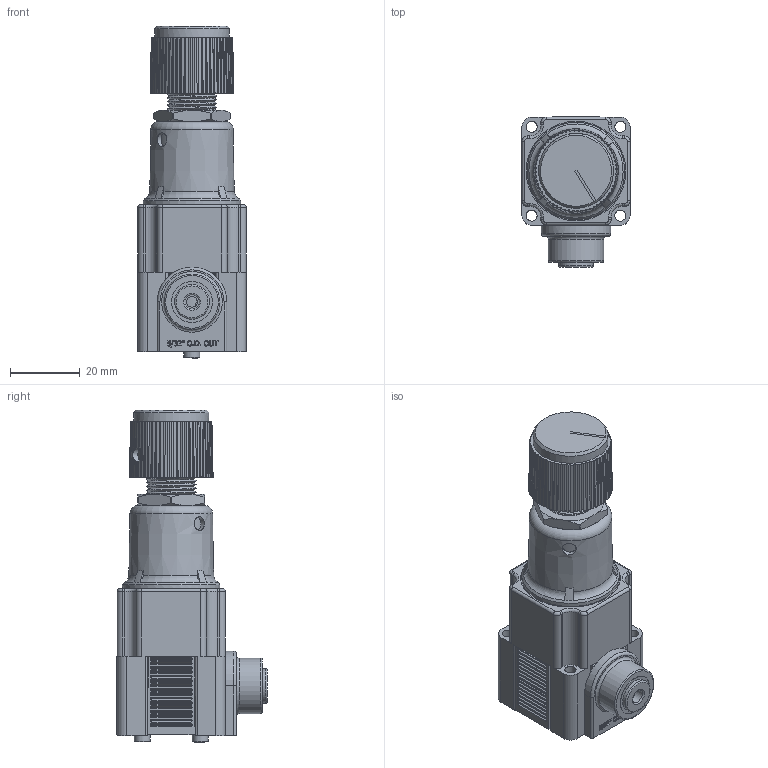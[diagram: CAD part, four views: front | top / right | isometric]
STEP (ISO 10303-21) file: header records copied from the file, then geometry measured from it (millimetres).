
FILE_DESCRIPTION(/* description */ (''),/* implementation_level */ '2;1');
FILE_NAME(/* name */ 'K:\Normteile INVENTOR\Air-Logic\Regulators\R6000\R 6___ 3 Push-In Fitting for 5''32 O.D. Tube Out.igs.ipt.stp',/* time_stamp */ '2020-05-27T10:57:05+02:00',/* author */ ('Paul'),/* organization */ (''),/* preprocessor_version */ 'ST-DEVELOPER v18',/* originating_system */ 'Autodesk Inventor 2020',/* authorisation */ '');
FILE_SCHEMA (('AUTOMOTIVE_DESIGN { 1 0 10303 214 3 1 1 }'));
Length unit declared in the file: inch
Products named in the file (1): R 6___ 3 Push-In Fitting for 5'32 O.D. Tube Out.igs
Bounding box: 31.19 x 43.08 x 95.02 mm (x, y, z)
Volume: 58874.8 mm3; surface area: 18121.2 mm2
Topology: 1 solids, 1 shells, 1122 faces, 2917 edges, 1888 vertices
Faces by surface type: plane 541, cylinder 352, bspline 110, cone 83, torus 36
Full cylindrical faces by diameter (mm): 1.194 x1, 2.032 x1, 3.073 x1, 3.124 x2, 3.175 x8, 3.988 x1, 4.064 x1, 4.089 x1, 4.521 x2, 6.045 x1, 8.382 x2, 9.169 x1, 9.398 x1, 9.906 x1, 11.735 x1, 12.903 x1, 15.85 x1, 19.406 x1, 21.476 x1, 27.94 x1, 28.575 x1
Entity records: 41557 total; most frequent: CARTESIAN_POINT 12827, ORIENTED_EDGE 5834, DIRECTION 5720, EDGE_CURVE 2917, AXIS2_PLACEMENT_3D 2151, VERTEX_POINT 1888, LINE 1418, VECTOR 1418
